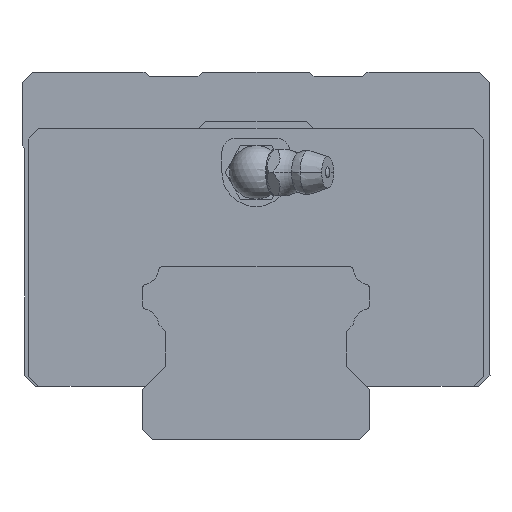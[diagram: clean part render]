
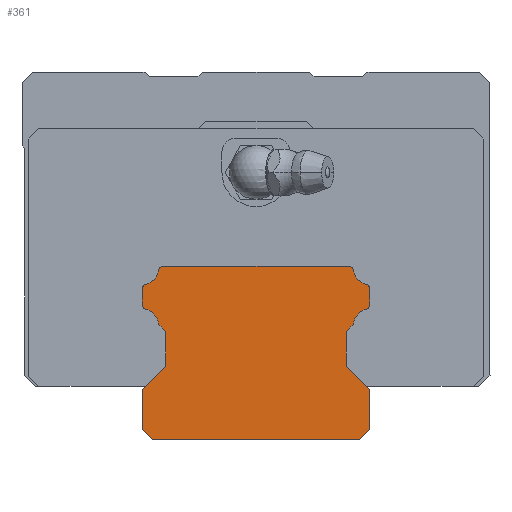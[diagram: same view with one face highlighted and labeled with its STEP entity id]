
A CAD part, front view. The second image highlights one B-rep face of the part: STEP entity #361.
In plain terms, the highlighted planar face has unit normal (0, -1, 0).
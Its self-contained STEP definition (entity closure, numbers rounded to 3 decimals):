
#361=ADVANCED_FACE('',(#814),#815,.T.);
#814=FACE_OUTER_BOUND('',#1310,.T.);
#815=PLANE('',#1311);
#1310=EDGE_LOOP('',(#3006,#3007,#3008,#3009,#3010,#3011,#3012,#3013,#3014,#3015,#3016,#3017,#3018,#3019,#3020,#3021,#3022,#3023,#3024,#3025,#3026,#3027,#3028,#3029));
#1311=AXIS2_PLACEMENT_3D('',#3030,#3031,#3032);
#3006=ORIENTED_EDGE('',*,*,#3805,.T.);
#3007=ORIENTED_EDGE('',*,*,#3775,.T.);
#3008=ORIENTED_EDGE('',*,*,#3771,.T.);
#3009=ORIENTED_EDGE('',*,*,#3839,.T.);
#3010=ORIENTED_EDGE('',*,*,#3813,.T.);
#3011=ORIENTED_EDGE('',*,*,#3830,.T.);
#3012=ORIENTED_EDGE('',*,*,#3802,.T.);
#3013=ORIENTED_EDGE('',*,*,#3778,.T.);
#3014=ORIENTED_EDGE('',*,*,#3755,.T.);
#3015=ORIENTED_EDGE('',*,*,#3788,.T.);
#3016=ORIENTED_EDGE('',*,*,#3781,.T.);
#3017=ORIENTED_EDGE('',*,*,#3785,.T.);
#3018=ORIENTED_EDGE('',*,*,#3820,.T.);
#3019=ORIENTED_EDGE('',*,*,#3794,.T.);
#3020=ORIENTED_EDGE('',*,*,#3790,.T.);
#3021=ORIENTED_EDGE('',*,*,#3817,.T.);
#3022=ORIENTED_EDGE('',*,*,#3837,.T.);
#3023=ORIENTED_EDGE('',*,*,#3798,.T.);
#3024=ORIENTED_EDGE('',*,*,#3832,.T.);
#3025=ORIENTED_EDGE('',*,*,#3822,.T.);
#3026=ORIENTED_EDGE('',*,*,#3765,.T.);
#3027=ORIENTED_EDGE('',*,*,#3810,.T.);
#3028=ORIENTED_EDGE('',*,*,#3838,.T.);
#3029=ORIENTED_EDGE('',*,*,#3825,.T.);
#3030=CARTESIAN_POINT('',(-16.2,-95.0,20.283));
#3031=DIRECTION('',(0.0,-1.0,0.0));
#3032=DIRECTION('',(0.0,0.0,-1.0));
#3755=EDGE_CURVE('',#4628,#4629,#4630,.T.);
#3765=EDGE_CURVE('',#4645,#4646,#4647,.T.);
#3771=EDGE_CURVE('',#4656,#4657,#4658,.T.);
#3775=EDGE_CURVE('',#4664,#4656,#4665,.T.);
#3778=EDGE_CURVE('',#4669,#4628,#4670,.T.);
#3781=EDGE_CURVE('',#4674,#4675,#4676,.T.);
#3785=EDGE_CURVE('',#4675,#4682,#4683,.T.);
#3788=EDGE_CURVE('',#4629,#4674,#4687,.T.);
#3790=EDGE_CURVE('',#4689,#4690,#4691,.T.);
#3794=EDGE_CURVE('',#4697,#4689,#4698,.T.);
#3798=EDGE_CURVE('',#4703,#4704,#4705,.T.);
#3802=EDGE_CURVE('',#4711,#4669,#4712,.T.);
#3805=EDGE_CURVE('',#4716,#4664,#4717,.T.);
#3810=EDGE_CURVE('',#4646,#4724,#4725,.T.);
#3813=EDGE_CURVE('',#4729,#4730,#4731,.T.);
#3817=EDGE_CURVE('',#4690,#4737,#4738,.T.);
#3820=EDGE_CURVE('',#4682,#4697,#4742,.T.);
#3822=EDGE_CURVE('',#4744,#4645,#4745,.T.);
#3825=EDGE_CURVE('',#4749,#4716,#4750,.T.);
#3830=EDGE_CURVE('',#4730,#4711,#4757,.T.);
#3832=EDGE_CURVE('',#4704,#4744,#4759,.T.);
#3837=EDGE_CURVE('',#4737,#4703,#4764,.T.);
#3838=EDGE_CURVE('',#4724,#4749,#4765,.T.);
#3839=EDGE_CURVE('',#4657,#4729,#4766,.T.);
#4628=VERTEX_POINT('',#5872);
#4629=VERTEX_POINT('',#5873);
#4630=LINE('',#5874,#5875);
#4645=VERTEX_POINT('',#5893);
#4646=VERTEX_POINT('',#5894);
#4647=LINE('',#5895,#5896);
#4656=VERTEX_POINT('',#5908);
#4657=VERTEX_POINT('',#5909);
#4658=CIRCLE('',#5910,2.6);
#4664=VERTEX_POINT('',#5918);
#4665=CIRCLE('',#5919,0.8);
#4669=VERTEX_POINT('',#5924);
#4670=LINE('',#5925,#5926);
#4674=VERTEX_POINT('',#5932);
#4675=VERTEX_POINT('',#5933);
#4676=LINE('',#5934,#5935);
#4682=VERTEX_POINT('',#5944);
#4683=LINE('',#5945,#5946);
#4687=LINE('',#5952,#5953);
#4689=VERTEX_POINT('',#5956);
#4690=VERTEX_POINT('',#5957);
#4691=CIRCLE('',#5958,2.6);
#4697=VERTEX_POINT('',#5966);
#4698=LINE('',#5967,#5968);
#4703=VERTEX_POINT('',#5975);
#4704=VERTEX_POINT('',#5976);
#4705=CIRCLE('',#5977,0.8);
#4711=VERTEX_POINT('',#5985);
#4712=LINE('',#5986,#5987);
#4716=VERTEX_POINT('',#5993);
#4717=LINE('',#5994,#5995);
#4724=VERTEX_POINT('',#6004);
#4725=CIRCLE('',#6005,0.8);
#4729=VERTEX_POINT('',#6010);
#4730=VERTEX_POINT('',#6011);
#4731=LINE('',#6012,#6013);
#4737=VERTEX_POINT('',#6022);
#4738=CIRCLE('',#6023,0.8);
#4742=LINE('',#6028,#6029);
#4744=VERTEX_POINT('',#6032);
#4745=CIRCLE('',#6033,0.8);
#4749=VERTEX_POINT('',#6038);
#4750=CIRCLE('',#6039,0.8);
#4757=LINE('',#6047,#6048);
#4759=CIRCLE('',#6051,2.6);
#4764=LINE('',#6058,#6059);
#4765=CIRCLE('',#6060,2.6);
#4766=LINE('',#6061,#6062);
#5872=CARTESIAN_POINT('',(-15.5,-95.0,0.));
#5873=CARTESIAN_POINT('',(15.5,-95.0,0.0));
#5874=CARTESIAN_POINT('',(-15.5,-95.0,0.0));
#5875=VECTOR('',#7136,1000.0);
#5893=CARTESIAN_POINT('',(13.785,-95.0,26.0));
#5894=CARTESIAN_POINT('',(-13.785,-95.0,26.0));
#5895=CARTESIAN_POINT('',(13.785,-95.0,26.0));
#5896=VECTOR('',#7158,1000.0);
#5908=CARTESIAN_POINT('',(-16.42,-95.0,19.514));
#5909=CARTESIAN_POINT('',(-14.545,-95.0,17.245));
#5910=AXIS2_PLACEMENT_3D('',#7168,#7169,#7170);
#5918=CARTESIAN_POINT('',(-17.0,-95.0,20.283));
#5919=AXIS2_PLACEMENT_3D('',#7176,#7177,#7178);
#5924=CARTESIAN_POINT('',(-17.0,-95.0,1.5));
#5925=CARTESIAN_POINT('',(-17.0,-95.0,1.5));
#5926=VECTOR('',#7183,1000.0);
#5932=CARTESIAN_POINT('',(17.0,-95.0,1.5));
#5933=CARTESIAN_POINT('',(17.0,-95.0,7.5));
#5934=CARTESIAN_POINT('',(17.0,-95.0,1.5));
#5935=VECTOR('',#7186,1000.0);
#5944=CARTESIAN_POINT('',(13.5,-95.0,11.));
#5945=CARTESIAN_POINT('',(17.0,-95.0,7.5));
#5946=VECTOR('',#7190,1000.0);
#5952=CARTESIAN_POINT('',(15.5,-95.0,0.0));
#5953=VECTOR('',#7193,1000.0);
#5956=CARTESIAN_POINT('',(14.545,-95.0,17.245));
#5957=CARTESIAN_POINT('',(16.42,-95.0,19.514));
#5958=AXIS2_PLACEMENT_3D('',#7195,#7196,#7197);
#5966=CARTESIAN_POINT('',(13.5,-95.0,16.2));
#5967=CARTESIAN_POINT('',(13.5,-95.0,16.2));
#5968=VECTOR('',#7203,1000.0);
#5975=CARTESIAN_POINT('',(17.0,-95.0,22.517));
#5976=CARTESIAN_POINT('',(16.42,-95.0,23.286));
#5977=AXIS2_PLACEMENT_3D('',#7209,#7210,#7211);
#5985=CARTESIAN_POINT('',(-17.0,-95.0,7.5));
#5986=CARTESIAN_POINT('',(-17.0,-95.0,7.5));
#5987=VECTOR('',#7217,1000.0);
#5993=CARTESIAN_POINT('',(-17.0,-95.0,22.517));
#5994=CARTESIAN_POINT('',(-17.0,-95.0,22.517));
#5995=VECTOR('',#7220,1000.0);
#6004=CARTESIAN_POINT('',(-14.573,-95.0,25.338));
#6005=AXIS2_PLACEMENT_3D('',#7229,#7230,#7231);
#6010=CARTESIAN_POINT('',(-13.5,-95.0,16.2));
#6011=CARTESIAN_POINT('',(-13.5,-95.0,11.));
#6012=CARTESIAN_POINT('',(-13.5,-95.0,16.2));
#6013=VECTOR('',#7236,1000.0);
#6022=CARTESIAN_POINT('',(17.0,-95.0,20.283));
#6023=AXIS2_PLACEMENT_3D('',#7240,#7241,#7242);
#6028=CARTESIAN_POINT('',(13.5,-95.0,11.));
#6029=VECTOR('',#7247,1000.0);
#6032=CARTESIAN_POINT('',(14.573,-95.0,25.338));
#6033=AXIS2_PLACEMENT_3D('',#7249,#7250,#7251);
#6038=CARTESIAN_POINT('',(-16.42,-95.0,23.286));
#6039=AXIS2_PLACEMENT_3D('',#7256,#7257,#7258);
#6047=CARTESIAN_POINT('',(-13.5,-95.0,11.));
#6048=VECTOR('',#7269,1000.0);
#6051=AXIS2_PLACEMENT_3D('',#7271,#7272,#7273);
#6058=CARTESIAN_POINT('',(17.0,-95.0,20.283));
#6059=VECTOR('',#7282,1000.0);
#6060=AXIS2_PLACEMENT_3D('',#7283,#7284,#7285);
#6061=CARTESIAN_POINT('',(-14.545,-95.0,17.245));
#6062=VECTOR('',#7286,1000.0);
#7136=DIRECTION('',(1.0,0.0,0.0));
#7158=DIRECTION('',(-1.0,0.0,0.0));
#7168=CARTESIAN_POINT('',(-17.134,-95.0,17.014));
#7169=DIRECTION('',(0.0,1.0,0.));
#7170=DIRECTION('',(1.0,0.0,0.0));
#7176=CARTESIAN_POINT('',(-16.2,-95.0,20.283));
#7177=DIRECTION('',(0.0,-1.0,0.0));
#7178=DIRECTION('',(1.0,0.0,0.0));
#7183=DIRECTION('',(0.707,0.0,-0.707));
#7186=DIRECTION('',(0.0,0.0,1.0));
#7190=DIRECTION('',(-0.707,0.0,0.707));
#7193=DIRECTION('',(0.707,0.0,0.707));
#7195=CARTESIAN_POINT('',(17.134,-95.0,17.014));
#7196=DIRECTION('',(0.0,1.0,0.));
#7197=DIRECTION('',(1.0,0.0,0.0));
#7203=DIRECTION('',(0.707,0.0,0.707));
#7209=CARTESIAN_POINT('',(16.2,-95.0,22.517));
#7210=DIRECTION('',(0.0,-1.0,0.0));
#7211=DIRECTION('',(1.0,0.0,0.0));
#7217=DIRECTION('',(0.0,0.0,-1.0));
#7220=DIRECTION('',(0.0,0.0,-1.0));
#7229=CARTESIAN_POINT('',(-13.785,-95.0,25.2));
#7230=DIRECTION('',(0.0,-1.0,0.0));
#7231=DIRECTION('',(1.0,0.0,0.0));
#7236=DIRECTION('',(0.0,0.0,-1.0));
#7240=CARTESIAN_POINT('',(16.2,-95.0,20.283));
#7241=DIRECTION('',(0.0,-1.0,0.0));
#7242=DIRECTION('',(1.0,0.0,0.0));
#7247=DIRECTION('',(0.0,0.0,1.0));
#7249=CARTESIAN_POINT('',(13.785,-95.0,25.2));
#7250=DIRECTION('',(0.0,-1.0,0.0));
#7251=DIRECTION('',(1.0,0.0,0.0));
#7256=CARTESIAN_POINT('',(-16.2,-95.0,22.517));
#7257=DIRECTION('',(0.0,-1.0,0.0));
#7258=DIRECTION('',(1.0,0.0,0.0));
#7269=DIRECTION('',(-0.707,0.0,-0.707));
#7271=CARTESIAN_POINT('',(17.134,-95.0,25.786));
#7272=DIRECTION('',(0.0,1.0,0.));
#7273=DIRECTION('',(1.0,0.0,0.0));
#7282=DIRECTION('',(0.0,0.0,1.0));
#7283=CARTESIAN_POINT('',(-17.134,-95.0,25.786));
#7284=DIRECTION('',(0.0,1.0,0.));
#7285=DIRECTION('',(1.0,0.0,0.0));
#7286=DIRECTION('',(0.707,0.0,-0.707));
